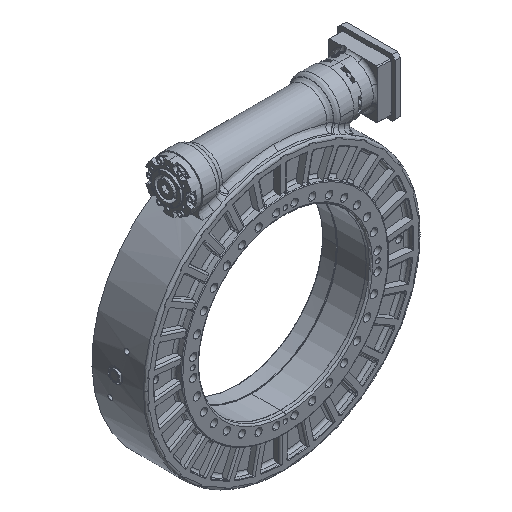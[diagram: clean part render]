
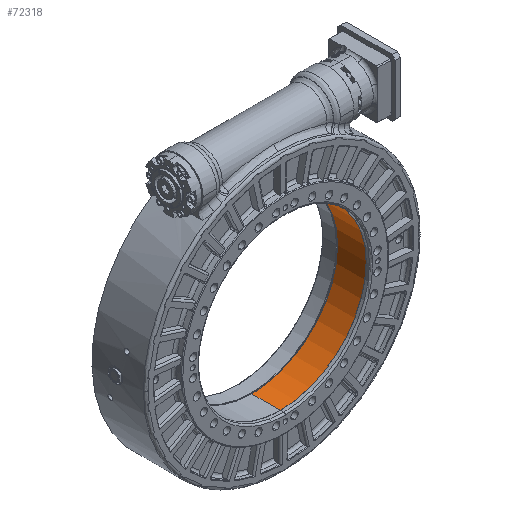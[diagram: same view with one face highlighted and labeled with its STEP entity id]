
A CAD part, isometric view. The second image highlights one B-rep face of the part: STEP entity #72318.
In plain terms, the highlighted cylindrical face has radius 261.5 mm (diameter 523 mm), a partial arc.
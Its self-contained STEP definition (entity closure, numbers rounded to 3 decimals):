
#7320 = ORIENTED_EDGE ( 'NONE', *, *, #19639, .T. ) ;
#10589 = VERTEX_POINT ( 'NONE', #17677 ) ;
#12404 = ORIENTED_EDGE ( 'NONE', *, *, #45619, .F. ) ;
#15237 = FACE_OUTER_BOUND ( 'NONE', #40505, .T. ) ;
#17150 = LINE ( 'NONE', #58863, #82366 ) ;
#17677 = CARTESIAN_POINT ( 'NONE',  ( 0., -10., -261.5 ) ) ;
#18831 = CARTESIAN_POINT ( 'NONE',  ( 0., 77.5, 0. ) ) ;
#19639 = EDGE_CURVE ( 'NONE', #19670, #42309, #32521, .T. ) ;
#19670 = VERTEX_POINT ( 'NONE', #75817 ) ;
#22258 = ORIENTED_EDGE ( 'NONE', *, *, #61577, .T. ) ;
#22424 = ORIENTED_EDGE ( 'NONE', *, *, #63741, .T. ) ;
#23823 = AXIS2_PLACEMENT_3D ( 'NONE', #67703, #25499, #33683 ) ;
#25499 = DIRECTION ( 'NONE',  ( 0., 1., 0. ) ) ;
#26325 = CARTESIAN_POINT ( 'NONE',  ( 0., -10., 261.5 ) ) ;
#29751 = CARTESIAN_POINT ( 'NONE',  ( 0., 77.5, -261.5 ) ) ;
#30195 = VERTEX_POINT ( 'NONE', #29751 ) ;
#32521 = CIRCLE ( 'NONE', #23823, 261.5 ) ;
#33683 = DIRECTION ( 'NONE',  ( 1., 0., 0. ) ) ;
#34222 = DIRECTION ( 'NONE',  ( 0., 1., 0. ) ) ;
#35576 = CARTESIAN_POINT ( 'NONE',  ( 261.5, 77.5, 0. ) ) ;
#38167 = LINE ( 'NONE', #56000, #79806 ) ;
#40345 = ORIENTED_EDGE ( 'NONE', *, *, #65409, .T. ) ;
#40505 = EDGE_LOOP ( 'NONE', ( #12404, #22258, #22424, #7320, #40345 ) ) ;
#42309 = VERTEX_POINT ( 'NONE', #35576 ) ;
#43964 = VERTEX_POINT ( 'NONE', #26325 ) ;
#45619 = EDGE_CURVE ( 'NONE', #10589, #30195, #17150, .T. ) ;
#46871 = AXIS2_PLACEMENT_3D ( 'NONE', #98144, #47828, #105715 ) ;
#47828 = DIRECTION ( 'NONE',  ( 0., -1., 0. ) ) ;
#49964 = CARTESIAN_POINT ( 'NONE',  ( 0., -10., 0. ) ) ;
#56000 = CARTESIAN_POINT ( 'NONE',  ( 0., -10., 261.5 ) ) ;
#58863 = CARTESIAN_POINT ( 'NONE',  ( 0., -10., -261.5 ) ) ;
#60553 = AXIS2_PLACEMENT_3D ( 'NONE', #49964, #34222, #100266 ) ;
#61577 = EDGE_CURVE ( 'NONE', #10589, #43964, #70955, .T. ) ;
#63741 = EDGE_CURVE ( 'NONE', #43964, #19670, #38167, .T. ) ;
#65409 = EDGE_CURVE ( 'NONE', #42309, #30195, #68073, .T. ) ;
#67703 = CARTESIAN_POINT ( 'NONE',  ( 0., 77.5, 0. ) ) ;
#68073 = CIRCLE ( 'NONE', #76718, 261.5 ) ;
#70955 = CIRCLE ( 'NONE', #46871, 261.5 ) ;
#72318 = ADVANCED_FACE ( 'NONE', ( #15237 ), #105183, .F. ) ;
#75817 = CARTESIAN_POINT ( 'NONE',  ( 0., 77.5, 261.5 ) ) ;
#76718 = AXIS2_PLACEMENT_3D ( 'NONE', #18831, #100674, #86454 ) ;
#79806 = VECTOR ( 'NONE', #88977, 1000. ) ;
#82366 = VECTOR ( 'NONE', #91908, 1000. ) ;
#86454 = DIRECTION ( 'NONE',  ( 1., 0., 0. ) ) ;
#88977 = DIRECTION ( 'NONE',  ( 0., 1., 0. ) ) ;
#91908 = DIRECTION ( 'NONE',  ( 0., 1., 0. ) ) ;
#98144 = CARTESIAN_POINT ( 'NONE',  ( 0., -10., 0. ) ) ;
#100266 = DIRECTION ( 'NONE',  ( 0., 0., 1. ) ) ;
#100674 = DIRECTION ( 'NONE',  ( 0., 1., 0. ) ) ;
#105183 = CYLINDRICAL_SURFACE ( 'NONE', #60553, 261.5 ) ;
#105715 = DIRECTION ( 'NONE',  ( 0., 0., 1. ) ) ;
